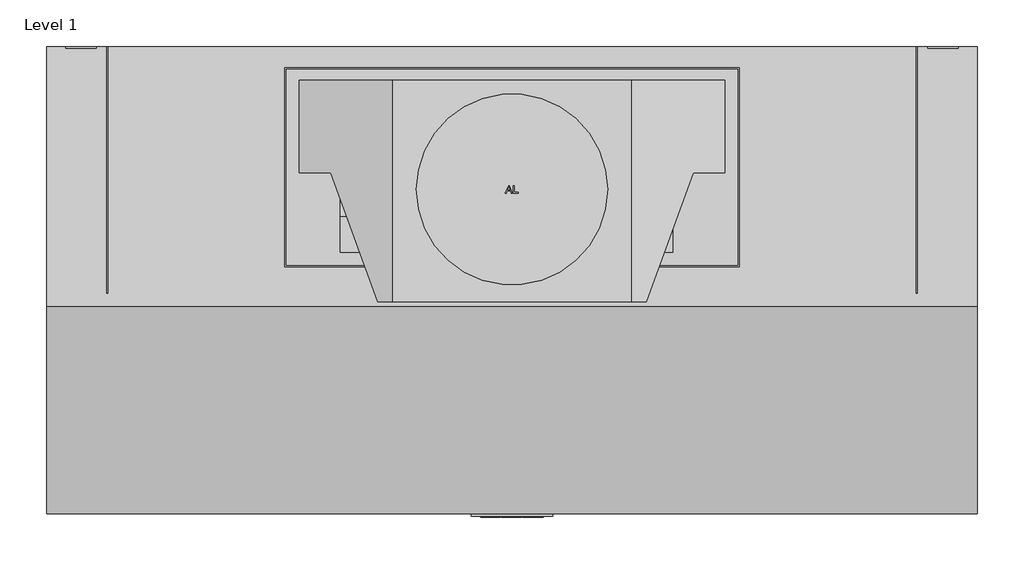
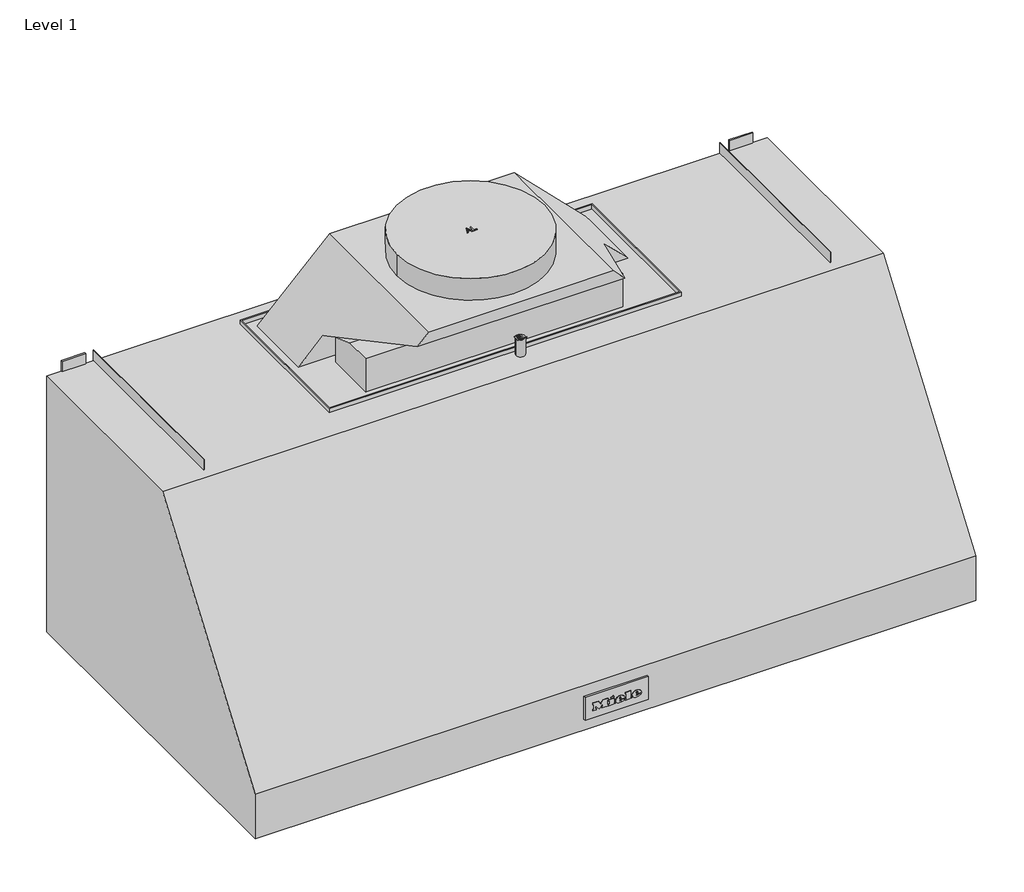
# One storey: 1 proxy.
"""IFC4 building model written with IfcOpenShell, lengths in millimetres."""

from ifc_helpers import new_model, si_unit, origin, place, context, project, spatial, transform, mapped, element, save
from components import specialty_equipment_2762908c

model = new_model("IFC4")

# Units and contexts
model_context = context("Model", 3, world=origin())
ifc_project = project(units=[si_unit("LENGTHUNIT", "METRE", prefix="MILLI")], contexts=[model_context])

# Site, building, storey
site = spatial("IfcSite", under=ifc_project)
building = spatial("IfcBuilding", under=site)
storey = spatial("IfcBuildingStorey", under=building, Name="Level 1", Elevation=0.0)

# Proxy
placement = place(None, origin())
specialty_equipment_shape = specialty_equipment_2762908c(model_context)
element("IfcBuildingElementProxy", 1, Name="11898190_USA_DAR1250-3_EDST : 28125051_USA_11898190_DAR1250-3_EDST", ObjectType="11898190_USA_DAR1250-3_EDST : 28125051_USA_11898190_DAR1250-3_EDST", at=placement, inside=storey, context=model_context, shape_type="MappedRepresentation", body=[
    mapped(specialty_equipment_shape, transform((0.0, 0.0, 0.0), x_axis=(1.0, 0.0, 0.0), y_axis=(0.0, 1.0, 0.0), z_axis=(0.0, 0.0, 1.0))),
])

save(model, "model.ifc")
